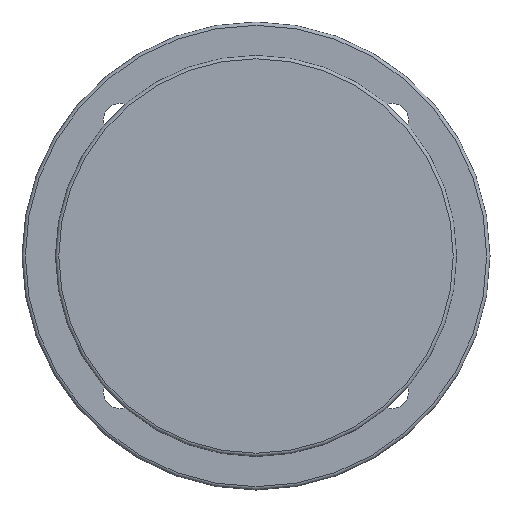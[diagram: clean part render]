
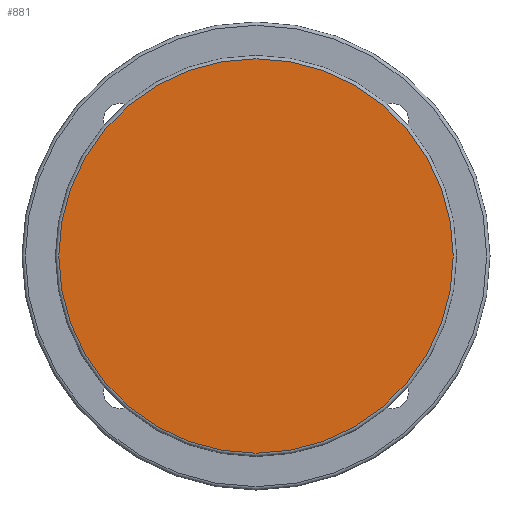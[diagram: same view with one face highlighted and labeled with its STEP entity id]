
A CAD part, left-side view. The second image highlights one B-rep face of the part: STEP entity #881.
In plain terms, the highlighted planar face has unit normal (-1, 0, 0).
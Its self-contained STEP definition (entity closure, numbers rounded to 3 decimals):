
#858=CARTESIAN_POINT('',(0.0,59.0,0.0));
#859=VERTEX_POINT('',#858);
#860=CARTESIAN_POINT('',(0.0,0.0,0.0));
#861=DIRECTION('',(1.0,0.0,0.0));
#862=DIRECTION('',(0.0,-1.0,0.0));
#863=AXIS2_PLACEMENT_3D('',#860,#861,#862);
#864=CIRCLE('',#863,59.0);
#865=EDGE_CURVE('',#859,#859,#864,.T.);
#873=CARTESIAN_POINT('',(0.0,49.5,0.));
#874=DIRECTION('',(-1.0,0.0,0.0));
#875=DIRECTION('',(0.0,0.0,1.0));
#876=AXIS2_PLACEMENT_3D('',#873,#874,#875);
#877=PLANE('',#876);
#878=ORIENTED_EDGE('',*,*,#865,.F.);
#879=EDGE_LOOP('',(#878));
#880=FACE_OUTER_BOUND('',#879,.T.);
#881=ADVANCED_FACE('',(#880),#877,.T.);
